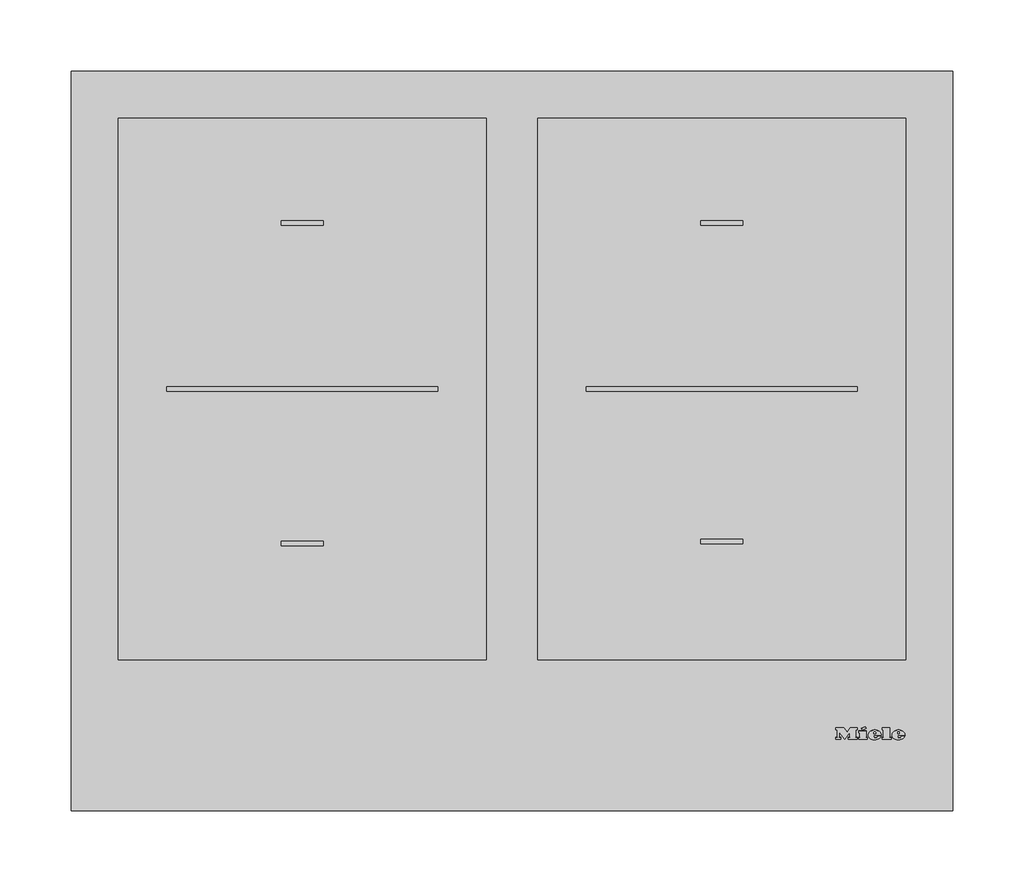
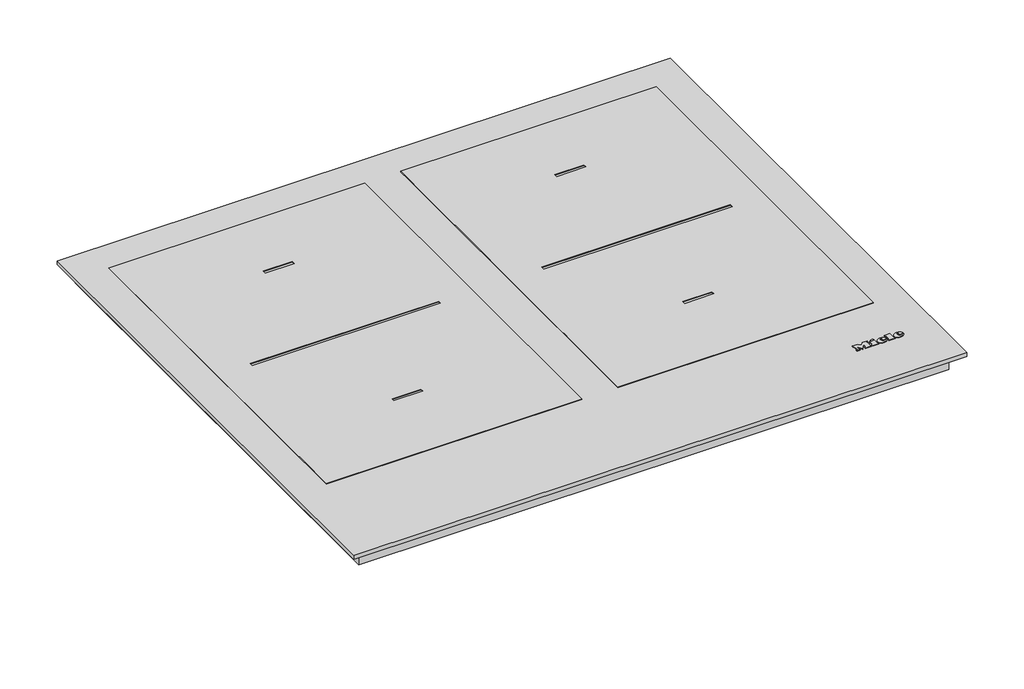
# Not in any storey: 1 proxy.
"""IFC4 building model written with IfcOpenShell, lengths in millimetres."""

from ifc_helpers import new_model, si_unit, origin, place, context, project, spatial, transform, mapped, element, save
from components import specialty_equipment_201f2936

model = new_model("IFC4")

# Units and contexts
model_context = context("Model", 3, world=origin())
ifc_project = project(units=[si_unit("LENGTHUNIT", "METRE", prefix="MILLI")], contexts=[model_context])

# Site, building
site = spatial("IfcSite", under=ifc_project)
building = spatial("IfcBuilding", under=site)

# Proxy
placement = place(None, origin())
specialty_equipment_shape = specialty_equipment_201f2936(model_context)
element("IfcBuildingElementProxy", 1, Name="11258920_CN_KM7564FLC : 26756470_CN_11258920_KM7564FLC", ObjectType="11258920_CN_KM7564FLC : 26756470_CN_11258920_KM7564FLC", at=placement, inside=building, context=model_context, shape_type="MappedRepresentation", body=[
    mapped(specialty_equipment_shape, transform((0.0, 0.0, 0.0), x_axis=(1.0, 0.0, 0.0), y_axis=(0.0, 1.0, 0.0), z_axis=(0.0, 0.0, 1.0))),
])

save(model, "model.ifc")
